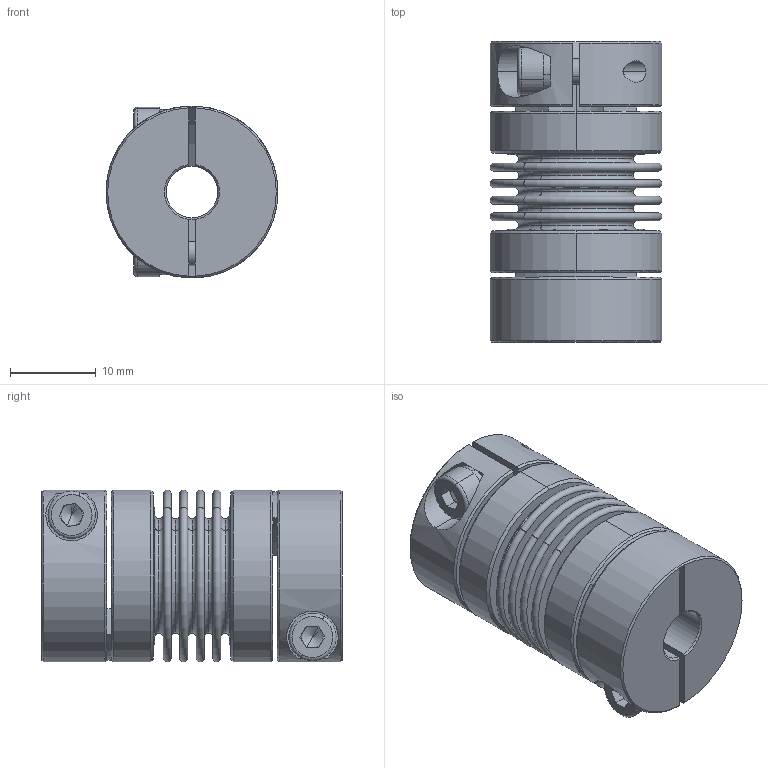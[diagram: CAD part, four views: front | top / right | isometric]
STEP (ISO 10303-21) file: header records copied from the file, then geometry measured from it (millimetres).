
FILE_DESCRIPTION (( 'STEP AP203' ), '1' );
FILE_NAME ('LB-B-D20L34-6-10.STEP', '2021-11-04T01:41:06', ( '' ), ( '' ), 'SwSTEP 2.0', 'SolidWorks 2018', '' );
FILE_SCHEMA (( 'CONFIG_CONTROL_DESIGN' ));
Length unit declared in the file: millimetre
Products named in the file (2): LB-B-D20L34-6-10; 零件4^LB-B-D20L34 波纹管联轴器-组装体
Assembly tree (1 placements, depth 2):
  LB-B-D20L34-6-10
    零件4^LB-B-D20L34 波纹管联轴器-组装体
Bounding box: 20 x 35 x 20 mm (x, y, z)
Volume: 5620.6 mm3; surface area: 9462 mm2
Topology: 1 solids, 1 shells, 246 faces, 572 edges, 354 vertices
Faces by surface type: plane 83, torus 68, cylinder 61, cone 34
Entity records: 7500 total; most frequent: CARTESIAN_POINT 1478, DIRECTION 1376, ORIENTED_EDGE 1136, AXIS2_PLACEMENT_3D 604, EDGE_CURVE 568, CIRCLE 354, VERTEX_POINT 354, EDGE_LOOP 288
